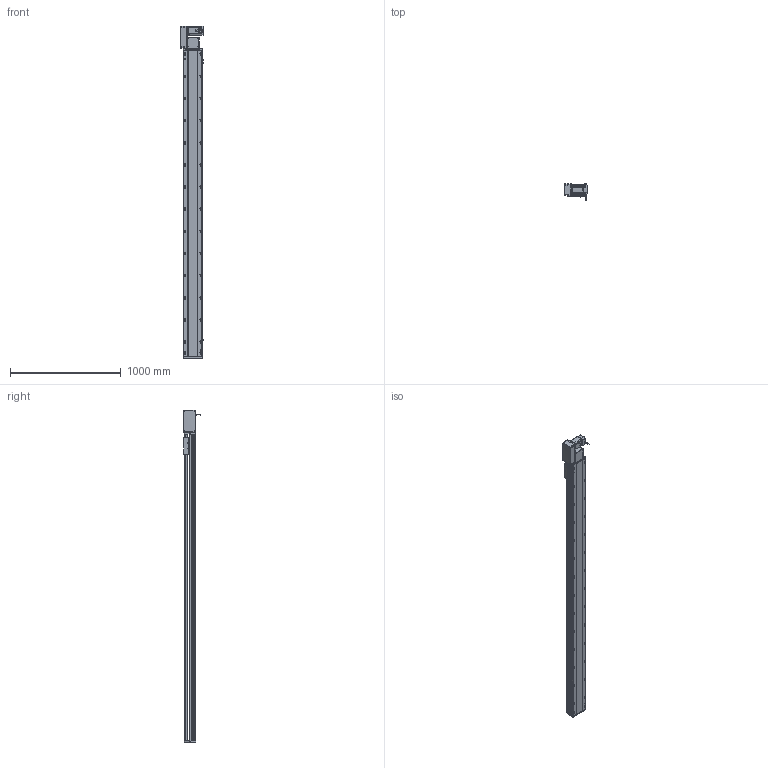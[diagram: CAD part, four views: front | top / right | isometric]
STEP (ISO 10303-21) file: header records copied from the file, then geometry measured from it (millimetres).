
FILE_DESCRIPTION (( 'STEP AP214' ), '1' );
FILE_NAME ('RTB17S-XX-2500-L-M75-C4.STEP', '2025-12-12T00:21:47', ( '' ), ( '' ), 'SwSTEP 2.0', 'SolidWorks 2018', '' );
FILE_SCHEMA (( 'AUTOMOTIVE_DESIGN' ));
Length unit declared in the file: millimetre
Products named in the file (15): RTB17S-L-々湍釱蚾饜-750W^RTB17S-XX-XX-L-M75-C4; 750W萇儂^RTB17S-XX-XX-L-M75-C4; RTB22S-GY-008-M75--萇儂啣^RTB17S-L-々湍釱蚾饜-750W_RTB17S-XX-XX-L-M75-C4; RTB22S-GY-005P^RTB17S-L-々湍釱蚾饜-750W_RTB17S-XX-XX-L-M75-C4; RTB17-R-011菁釱^RTB17S-XX-XX-L-M75-C4; RTB22S-GY-018P^RTB17S-L-々湍釱蚾饜-750W_RTB17S-XX-XX-L-M75-C4; RTB17S-L-004-賑釱^RTB17S-賑釱_RTB17S-XX-XX-L-M75-C4; RTB17S-XX-2500-L-M75-C4; RTB22S-GY-017P^RTB17S-L-々湍釱蚾饜-750W_RTB17S-XX-XX-L-M75-C4; RTB17S-賑釱^RTB17S-XX-XX-L-M75-C4; RMP17S-L-014-T20-P75--々湍釱^RTB17S-L-々湍釱蚾饜-750W_RTB17S-XX-XX-L-M75-C4; RTB17S-L-007奻裔^RTB17S-XX-XX-L-M75-C4; EE672^RTB17S-XX-XX-L-M75-C4; RTB17S-L-001-耜醱啣^RTB17S-XX-XX-L-M75-C4; RTH13-BL-012覜茼え俋离^RTB17S-賑釱_RTB17S-XX-XX-L-M75-C4
Assembly tree (17 placements, depth 3):
  RTB17S-XX-2500-L-M75-C4
    RTB17-R-011菁釱^RTB17S-XX-XX-L-M75-C4
    EE672^RTB17S-XX-XX-L-M75-C4  x3
    RTB17S-L-001-耜醱啣^RTB17S-XX-XX-L-M75-C4
    RTB17S-賑釱^RTB17S-XX-XX-L-M75-C4
      RTB17S-L-004-賑釱^RTB17S-賑釱_RTB17S-XX-XX-L-M75-C4
      RTH13-BL-012覜茼え俋离^RTB17S-賑釱_RTB17S-XX-XX-L-M75-C4
    RTB17S-L-007奻裔^RTB17S-XX-XX-L-M75-C4
    750W萇儂^RTB17S-XX-XX-L-M75-C4
    RTB17S-L-々湍釱蚾饜-750W^RTB17S-XX-XX-L-M75-C4
      RMP17S-L-014-T20-P75--々湍釱^RTB17S-L-々湍釱蚾饜-750W_RTB17S-XX-XX-L-M75-C4
      RTB22S-GY-005P^RTB17S-L-々湍釱蚾饜-750W_RTB17S-XX-XX-L-M75-C4
      RTB22S-GY-017P^RTB17S-L-々湍釱蚾饜-750W_RTB17S-XX-XX-L-M75-C4  x2
      RTB22S-GY-008-M75--萇儂啣^RTB17S-L-々湍釱蚾饜-750W_RTB17S-XX-XX-L-M75-C4
      RTB22S-GY-018P^RTB17S-L-々湍釱蚾饜-750W_RTB17S-XX-XX-L-M75-C4
Bounding box: 210.4 x 152.7 x 2999 mm (x, y, z)
Volume: 21575256.2 mm3; surface area: 3914312.2 mm2
Topology: 17 solids, 17 shells, 2217 faces, 6214 edges, 4022 vertices
Faces by surface type: plane 986, cylinder 815, bspline 294, cone 110, sphere 8, torus 4
Entity records: 64246 total; most frequent: CARTESIAN_POINT 19078, ORIENTED_EDGE 9272, DIRECTION 8582, EDGE_CURVE 4636, AXIS2_PLACEMENT_3D 3042, VERTEX_POINT 3026, VECTOR 2498, LINE 2498
